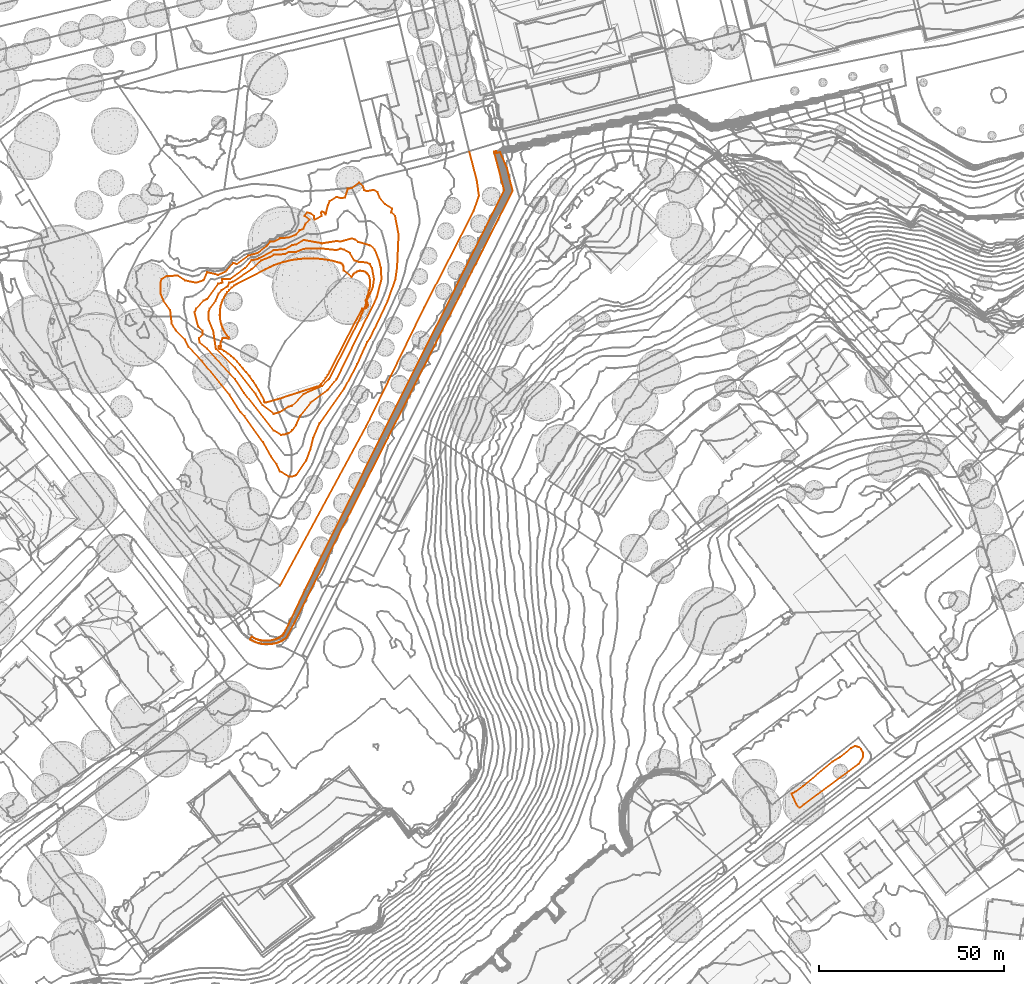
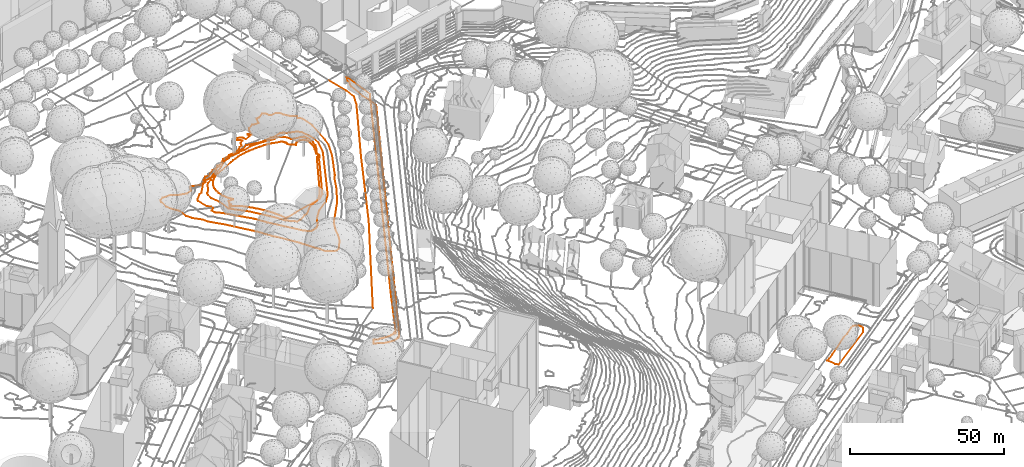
# Not in any storey, part 140 of 494: 7 proxies.
"""IFC2X3 model written with IfcOpenShell, lengths in metres."""

from ifc_helpers import new_model, entity, si_unit, frame, origin_with_axes, place, context, subcontext, project, element, save


model = new_model("IFC2X3")

# Units and contexts
model_context = context("Model", 3, precision=1e-05, world=origin_with_axes())
body_context = subcontext(model_context, "Body", "Model", "MODEL_VIEW")
ifc_project = project(units=[si_unit("AREAUNIT", "SQUARE_METRE"), si_unit("LENGTHUNIT", "METRE")], contexts=[model_context])

# Proxies
proxy_1_placement = place(None, frame((252.3687320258, 195.3547372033, 538.186), z_axis=(0.0, 0.0, 1.0), x_axis=(1.0, 0.0, 0.0)))
element("IfcBuildingElementProxy", 1, at=proxy_1_placement, Name="Road 66", ObjectType="NOTDEFINED", context=body_context, shape_type="GeometricCurveSet", body=[
    entity("IfcGeometricCurveSet", [entity("IfcPolyline", [entity("IfcCartesianPoint", [51.1030000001, 117.3269964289, 1.375]), entity("IfcCartesianPoint", [53.1590000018, 109.5449966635, 1.275]), entity("IfcCartesianPoint", [53.745000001, 105.2859967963, 1.244]), entity("IfcCartesianPoint", [52.2780000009, 101.1749969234, 1.155]), entity("IfcCartesianPoint", [38.9140000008, 75.0359977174, 0.882]), entity("IfcCartesianPoint", [23.2030000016, 42.8769986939, 0.571]), entity("IfcCartesianPoint", [0.0, 0.0, 0.0])])]),
])
proxy_2_placement = place(None, frame((244.2247320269, 180.7827160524, 535.7210730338), z_axis=(0.0, 0.0, 1.0), x_axis=(1.0, 0.0, 0.0)))
element("IfcBuildingElementProxy", 2, at=proxy_2_placement, Name="Roads Outline 68", ObjectType="NOTDEFINED", context=body_context, shape_type="GeometricCurveSet", body=[
    entity("IfcGeometricCurveSet", [entity("IfcPolyline", [entity("IfcCartesianPoint", [0.0, 0.0, 0.0]), entity("IfcCartesianPoint", [0.4299999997, 0.7220000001, 1.0061032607]), entity("IfcCartesianPoint", [1.0609999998, 0.3840000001, 0.9493057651]), entity("IfcCartesianPoint", [1.7209999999, 0.1060000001, 1.0155911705]), entity("IfcCartesianPoint", [2.4039999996, -0.108, 1.1948228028]), entity("IfcCartesianPoint", [3.1039999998, -0.257, 1.230017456]), entity("IfcCartesianPoint", [3.8149999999, -0.3399999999, 1.2166113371]), entity("IfcCartesianPoint", [4.5299999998, -0.355, 1.2185154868]), entity("IfcCartesianPoint", [5.2439999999, -0.3029999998, 1.1986940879]), entity("IfcCartesianPoint", [5.9499999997, -0.1839999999, 1.1050534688]), entity("IfcCartesianPoint", [6.6409999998, 0.0, 0.9576738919]), entity("IfcCartesianPoint", [7.3129999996, 0.2490000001, 0.9249265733]), entity("IfcCartesianPoint", [7.9569999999, 0.5600000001, 1.2168064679]), entity("IfcCartesianPoint", [8.5699999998, 0.9300000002, 0.633516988]), entity("IfcCartesianPoint", [8.7879999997, 1.0960000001, 0.312817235]), entity("IfcCartesianPoint", [8.9849999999, 1.287, 0.1601853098]), entity("IfcCartesianPoint", [9.156, 1.5010000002, 0.2142237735]), entity("IfcCartesianPoint", [9.2959999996, 1.737, 0.2580758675]), entity("IfcCartesianPoint", [10.4009999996, 4.048, 1.1655650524]), entity("IfcCartesianPoint", [17.642, 19.182, 1.3030862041]), entity("IfcCartesianPoint", [68.6979999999, 121.4140000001, 1.3862317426]), entity("IfcCartesianPoint", [66.0919999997, 131.3120000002, 2.9035002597]), entity("IfcCartesianPoint", [65.9649999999, 131.794, 2.7480724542]), entity("IfcCartesianPoint", [66.449, 131.9210000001, 1.2071904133]), entity("IfcCartesianPoint", [66.5759999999, 131.439, 1.2571021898]), entity("IfcCartesianPoint", [67.605, 131.6910000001, -1.3891723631]), entity("IfcCartesianPoint", [69.4449999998, 127.3530000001, -3.1595826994]), entity("IfcCartesianPoint", [70.9919999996, 121.2250000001, -3.6091087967]), entity("IfcCartesianPoint", [10.3689999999, 1.29, -0.8566308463]), entity("IfcCartesianPoint", [10.102, 0.841, -0.8938719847]), entity("IfcCartesianPoint", [9.7779999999, 0.432, -0.8188216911]), entity("IfcCartesianPoint", [9.4009999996, 0.071, -0.7954715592]), entity("IfcCartesianPoint", [8.9789999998, -0.237, -0.8281494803]), entity("IfcCartesianPoint", [8.52, -0.4849999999, -0.7047566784]), entity("IfcCartesianPoint", [7.8059999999, -0.7749999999, -0.5943769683]), entity("IfcCartesianPoint", [7.071, -1.004, -0.6153123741]), entity("IfcCartesianPoint", [6.318, -1.1699999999, -0.5635216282]), entity("IfcCartesianPoint", [5.5549999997, -1.273, -0.39316825]), entity("IfcCartesianPoint", [4.7849999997, -1.311, -0.2687760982]), entity("IfcCartesianPoint", [4.0159999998, -1.284, -0.2092546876]), entity("IfcCartesianPoint", [3.2509999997, -1.193, -0.1711743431]), entity("IfcCartesianPoint", [2.4959999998, -1.037, -0.1060556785]), entity("IfcCartesianPoint", [1.8449999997, -0.848, 0.0245304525]), entity("IfcCartesianPoint", [1.21, -0.611, 0.0957175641]), entity("IfcCartesianPoint", [0.5939999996, -0.328, 0.0530981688]), entity("IfcCartesianPoint", [0.0, 0.0, 0.0])])]),
])
proxy_3_placement = place(None, frame((235.7467320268, 259.5927160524, 545.3221612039), z_axis=(0.0, 0.0, 1.0), x_axis=(1.0, 0.0, 0.0)))
element("IfcBuildingElementProxy", 3, at=proxy_3_placement, Name="Roads Outline 74", ObjectType="NOTDEFINED", context=body_context, shape_type="GeometricCurveSet", body=[
    entity("IfcGeometricCurveSet", [entity("IfcPolyline", [entity("IfcCartesianPoint", [0.071, 0.334, 0.0651981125]), entity("IfcCartesianPoint", [0.182, 0.4399999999, 0.1075597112]), entity("IfcCartesianPoint", [0.324, 0.4979999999, 0.154048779]), entity("IfcCartesianPoint", [0.4780000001, 0.5020000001, 0.189675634]), entity("IfcCartesianPoint", [0.622, 0.45, 0.2000941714]), entity("IfcCartesianPoint", [0.6740000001, 0.4140000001, 0.203348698]), entity("IfcCartesianPoint", [0.7209999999, 0.371, 0.2062245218]), entity("IfcCartesianPoint", [0.5329999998, 1.263, 0.2394812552]), entity("IfcCartesianPoint", [1.0619999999, 2.6140000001, 0.2479954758]), entity("IfcCartesianPoint", [2.6770000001, 2.514, 0.353304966]), entity("IfcCartesianPoint", [2.8419999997, 2.7050000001, 0.3745429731]), entity("IfcCartesianPoint", [2.3049999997, 3.344, 0.3797678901]), entity("IfcCartesianPoint", [1.827, 4.0279999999, 0.3763929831]), entity("IfcCartesianPoint", [1.4100000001, 4.7520000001, 0.4167514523]), entity("IfcCartesianPoint", [1.0589999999, 5.5090000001, 0.4004581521]), entity("IfcCartesianPoint", [0.7749999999, 6.294, 0.3670012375]), entity("IfcCartesianPoint", [0.5619999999, 7.101, 0.4122499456]), entity("IfcCartesianPoint", [0.4199999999, 7.9240000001, 0.4319499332]), entity("IfcCartesianPoint", [0.3509999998, 8.7560000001, 0.4179076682]), entity("IfcCartesianPoint", [0.355, 9.5900000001, 0.4086109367]), entity("IfcCartesianPoint", [0.432, 10.4210000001, 0.4042455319]), entity("IfcCartesianPoint", [0.5819999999, 11.243, 0.4009439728]), entity("IfcCartesianPoint", [0.804, 12.047, 0.4115216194]), entity("IfcCartesianPoint", [1.0949999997, 12.8300000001, 0.3747185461]), entity("IfcCartesianPoint", [1.4539999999, 13.5830000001, 0.4072953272]), entity("IfcCartesianPoint", [1.878, 14.3030000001, 0.3890851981]), entity("IfcCartesianPoint", [2.3629999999, 14.9820000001, 0.3923362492]), entity("IfcCartesianPoint", [2.906, 15.6159999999, 0.3093031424]), entity("IfcCartesianPoint", [3.5019999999, 16.2, 0.3207295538]), entity("IfcCartesianPoint", [4.148, 16.7290000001, 0.3271631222]), entity("IfcCartesianPoint", [4.8369999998, 17.2, 0.3668287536]), entity("IfcCartesianPoint", [12.7689999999, 21.2479999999, 0.3308004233]), entity("IfcCartesianPoint", [13.8879999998, 21.8089999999, 0.3094098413]), entity("IfcCartesianPoint", [15.0350000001, 22.3100000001, 0.2955266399]), entity("IfcCartesianPoint", [16.2059999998, 22.7509999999, 0.3725366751]), entity("IfcCartesianPoint", [17.3989999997, 23.129, 0.40849457]), entity("IfcCartesianPoint", [18.611, 23.4450000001, 0.3205750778]), entity("IfcCartesianPoint", [19.8369999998, 23.696, 0.2684554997]), entity("IfcCartesianPoint", [21.074, 23.8829999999, 0.2900351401]), entity("IfcCartesianPoint", [22.3199999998, 24.0049999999, 0.3147050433]), entity("IfcCartesianPoint", [23.7779999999, 24.1040000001, 0.3221531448]), entity("IfcCartesianPoint", [25.2379999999, 24.1229999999, 0.3093999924]), entity("IfcCartesianPoint", [26.6979999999, 24.0619999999, 0.3817489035]), entity("IfcCartesianPoint", [28.1519999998, 23.922, 0.3882255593]), entity("IfcCartesianPoint", [29.5959999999, 23.702, 0.3894461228]), entity("IfcCartesianPoint", [31.0260000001, 23.4029999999, 0.3442209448]), entity("IfcCartesianPoint", [32.4380000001, 23.027, 0.4470005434]), entity("IfcCartesianPoint", [32.6829999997, 22.953, 0.3813312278]), entity("IfcCartesianPoint", [32.9279999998, 22.8770000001, 0.3212112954]), entity("IfcCartesianPoint", [33.2080000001, 22.703, 0.2616931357]), entity("IfcCartesianPoint", [33.4469999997, 22.477, 0.2273785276]), entity("IfcCartesianPoint", [33.6359999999, 22.2080000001, 0.2118000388]), entity("IfcCartesianPoint", [33.767, 21.906, 0.2065725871]), entity("IfcCartesianPoint", [33.835, 21.5830000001, 0.2133011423]), entity("IfcCartesianPoint", [33.8369999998, 21.254, 0.2299949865]), entity("IfcCartesianPoint", [33.764, 20.855, 0.2571639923]), entity("IfcCartesianPoint", [35.9939999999, 19.1059999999, 0.3105807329]), entity("IfcCartesianPoint", [36.358, 19.7660000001, 0.3020234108]), entity("IfcCartesianPoint", [36.6499999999, 20.0900000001, 0.3046709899]), entity("IfcCartesianPoint", [36.9929999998, 20.3600000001, 0.2825148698]), entity("IfcCartesianPoint", [37.3759999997, 20.568, 0.2676673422]), entity("IfcCartesianPoint", [37.784, 20.7080000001, 0.2500416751]), entity("IfcCartesianPoint", [38.21, 20.7779999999, 0.2360087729]), entity("IfcCartesianPoint", [38.6409999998, 20.774, 0.234298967]), entity("IfcCartesianPoint", [39.0649999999, 20.6980000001, 0.2490400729]), entity("IfcCartesianPoint", [39.4709999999, 20.551, 0.2692685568]), entity("IfcCartesianPoint", [39.8459999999, 20.338, 0.2081053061]), entity("IfcCartesianPoint", [40.179, 20.064, 0.1583831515]), entity("IfcCartesianPoint", [40.4619999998, 19.7379999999, 0.0658126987]), entity("IfcCartesianPoint", [40.6850000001, 19.3689999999, -0.0284233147]), entity("IfcCartesianPoint", [40.844, 18.8200000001, -0.0960962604]), entity("IfcCartesianPoint", [40.946, 18.257, -0.1512278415]), entity("IfcCartesianPoint", [40.9909999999, 17.6869999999, -0.1982094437]), entity("IfcCartesianPoint", [40.9780000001, 17.1159999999, -0.2316018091]), entity("IfcCartesianPoint", [40.906, 16.548, -0.2857802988]), entity("IfcCartesianPoint", [40.7779999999, 15.9909999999, -0.318821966]), entity("IfcCartesianPoint", [40.5159999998, 14.8999999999, -0.364779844]), entity("IfcCartesianPoint", [40.1770000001, 13.831, -0.4413281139]), entity("IfcCartesianPoint", [39.764, 12.7879999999, -0.4899738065]), entity("IfcCartesianPoint", [39.7209999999, 12.6899999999, -0.4852508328]), entity("IfcCartesianPoint", [39.9449999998, 12.5430000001, -0.5973764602]), entity("IfcCartesianPoint", [40.128, 12.3470000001, -0.7081550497]), entity("IfcCartesianPoint", [40.2599999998, 12.1140000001, -0.8109144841]), entity("IfcCartesianPoint", [40.3330000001, 11.8559999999, -0.906940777]), entity("IfcCartesianPoint", [40.3429999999, 11.588, -0.9774460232]), entity("IfcCartesianPoint", [40.29, 11.325, -1.0156946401]), entity("IfcCartesianPoint", [40.179, 11.0889999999, -1.0177706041]), entity("IfcCartesianPoint", [40.017, 10.8840000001, -0.9801153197]), entity("IfcCartesianPoint", [39.8119999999, 10.7220000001, -0.909816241]), entity("IfcCartesianPoint", [39.5749999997, 10.612, -0.8111482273]), entity("IfcCartesianPoint", [39.3190000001, 10.5589999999, -0.6945783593]), entity("IfcCartesianPoint", [39.0579999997, 10.5660000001, -0.568876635]), entity("IfcCartesianPoint", [38.8059999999, 10.6329999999, -0.4335981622]), entity("IfcCartesianPoint", [30.0120000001, -6.456, -0.2663294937]), entity("IfcCartesianPoint", [29.5279999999, -7.352, -0.2404685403]), entity("IfcCartesianPoint", [28.9759999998, -8.2069999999, -0.2618864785]), entity("IfcCartesianPoint", [28.358, -9.0160000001, -0.2740879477]), entity("IfcCartesianPoint", [27.679, -9.7749999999, -0.389313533]), entity("IfcCartesianPoint", [26.943, -10.4779999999, -0.5229590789]), entity("IfcCartesianPoint", [26.6349999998, -10.4620000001, -0.4604393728]), entity("IfcCartesianPoint", [16.7029999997, -13.679, 0.0635464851]), entity("IfcCartesianPoint", [13.193, -14.709, 0.0210121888]), entity("IfcCartesianPoint", [12.8089999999, -14.821, -0.0696048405]), entity("IfcCartesianPoint", [12.7429999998, -14.834, -0.0850407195]), entity("IfcCartesianPoint", [12.676, -14.8359999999, -0.0989210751]), entity("IfcCartesianPoint", [12.5359999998, -14.801, -0.120521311]), entity("IfcCartesianPoint", [12.4180000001, -14.7169999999, -0.1258110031]), entity("IfcCartesianPoint", [12.3390000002, -14.5959999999, -0.1096756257]), entity("IfcCartesianPoint", [12.3089999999, -14.4550000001, -0.0835083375]), entity("IfcCartesianPoint", [12.324, -14.3470000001, -0.0595884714]), entity("IfcCartesianPoint", [12.3689999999, -14.247, -0.0347773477]), entity("IfcCartesianPoint", [11.6829999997, -12.875, 0.0698294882]), entity("IfcCartesianPoint", [10.9399999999, -11.5319999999, 0.103369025]), entity("IfcCartesianPoint", [10.1409999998, -10.2220000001, 0.1861446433]), entity("IfcCartesianPoint", [9.2879999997, -8.9469999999, 0.2594625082]), entity("IfcCartesianPoint", [8.3819999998, -7.7080000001, 0.2735313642]), entity("IfcCartesianPoint", [7.4249999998, -6.5090000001, 0.317861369]), entity("IfcCartesianPoint", [6.6459999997, -5.5789999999, 0.2989048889]), entity("IfcCartesianPoint", [5.8619999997, -4.6529999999, 0.2676621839]), entity("IfcCartesianPoint", [5.0430000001, -3.7560000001, 0.2092078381]), entity("IfcCartesianPoint", [4.1669999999, -2.915, 0.3029572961]), entity("IfcCartesianPoint", [3.327, -2.1939999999, 0.2849520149]), entity("IfcCartesianPoint", [2.4539999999, -1.514, 0.185128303]), entity("IfcCartesianPoint", [1.5499999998, -0.875, 0.1770944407]), entity("IfcCartesianPoint", [0.6170000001, -0.2790000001, 0.0948079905]), entity("IfcCartesianPoint", [0.4810000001, -0.327, 0.0576880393]), entity("IfcCartesianPoint", [0.3360000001, -0.3259999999, 0.0196847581]), entity("IfcCartesianPoint", [0.1999999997, -0.2760000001, -0.0090171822]), entity("IfcCartesianPoint", [0.071, -0.159, -0.0186763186]), entity("IfcCartesianPoint", [0.0, 0.0, 0.0]), entity("IfcCartesianPoint", [0.0, 0.175, 0.0290642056]), entity("IfcCartesianPoint", [0.071, 0.334, 0.0651981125])])]),
])
proxy_4_placement = place(None, frame((233.0326490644, 269.1707160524, 545.0), z_axis=(0.0, 0.0, 1.0), x_axis=(1.0, 0.0, 0.0)))
element("IfcBuildingElementProxy", 4, at=proxy_4_placement, Name="Contour Line 545.0 m", ObjectType="NOTDEFINED", context=body_context, shape_type="GeometricCurveSet", body=[
    entity("IfcGeometricCurveSet", [entity("IfcPolyline", [entity("IfcCartesianPoint", [19.230031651, -27.0, 0.0]), entity("IfcCartesianPoint", [17.6450829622, -27.4382716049, 0.0]), entity("IfcCartesianPoint", [14.6450829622, -25.1175847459, 0.0]), entity("IfcCartesianPoint", [12.673018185, -22.0, 0.0]), entity("IfcCartesianPoint", [7.2007049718, -15.0, 0.0]), entity("IfcCartesianPoint", [2.0355571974, -10.0, 0.0]), entity("IfcCartesianPoint", [1.2820936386, -5.0, 0.0]), entity("IfcCartesianPoint", [0.0653756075, -2.0, 0.0]), entity("IfcCartesianPoint", [0.0, 0.0, 0.0]), entity("IfcCartesianPoint", [0.3465792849, 1.0, 0.0]), entity("IfcCartesianPoint", [1.85348449, 3.0, 0.0]), entity("IfcCartesianPoint", [2.7374837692, 5.0, 0.0]), entity("IfcCartesianPoint", [3.504677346, 6.0, 0.0]), entity("IfcCartesianPoint", [5.1803809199, 7.0, 0.0]), entity("IfcCartesianPoint", [5.5614732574, 8.0, 0.0]), entity("IfcCartesianPoint", [6.6450829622, 8.2703207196, 0.0]), entity("IfcCartesianPoint", [11.6450829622, 11.6198762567, 0.0]), entity("IfcCartesianPoint", [14.1642824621, 14.0, 0.0]), entity("IfcCartesianPoint", [16.6450829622, 14.91160221, 0.0]), entity("IfcCartesianPoint", [17.6450829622, 15.588881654, 0.0]), entity("IfcCartesianPoint", [20.6450829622, 15.6856537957, 0.0]), entity("IfcCartesianPoint", [21.6450829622, 16.2743639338, 0.0]), entity("IfcCartesianPoint", [23.6450829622, 16.332352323, 0.0]), entity("IfcCartesianPoint", [25.6450829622, 17.1393662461, 0.0]), entity("IfcCartesianPoint", [30.6450829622, 17.2044747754, 0.0]), entity("IfcCartesianPoint", [34.6450829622, 16.7855707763, 0.0]), entity("IfcCartesianPoint", [35.6450829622, 17.1813153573, 0.0]), entity("IfcCartesianPoint", [36.6450829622, 16.8818947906, 0.0]), entity("IfcCartesianPoint", [38.1881718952, 16.0, 0.0]), entity("IfcCartesianPoint", [39.4062480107, 14.0, 0.0]), entity("IfcCartesianPoint", [40.6450829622, 13.5767918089, 0.0]), entity("IfcCartesianPoint", [42.6450829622, 13.449440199, 0.0]), entity("IfcCartesianPoint", [43.6584103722, 13.0, 0.0]), entity("IfcCartesianPoint", [44.1838680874, 12.0, 0.0]), entity("IfcCartesianPoint", [44.7244630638, 9.0, 0.0]), entity("IfcCartesianPoint", [44.4401311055, 7.0, 0.0]), entity("IfcCartesianPoint", [43.7030434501, 5.0, 0.0]), entity("IfcCartesianPoint", [42.6450829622, 3.0662042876, 0.0]), entity("IfcCartesianPoint", [42.4687456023, 2.0, 0.0]), entity("IfcCartesianPoint", [40.7791617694, -2.0, 0.0]), entity("IfcCartesianPoint", [32.5998326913, -18.0, 0.0]), entity("IfcCartesianPoint", [30.6450829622, -19.8740307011, 0.0]), entity("IfcCartesianPoint", [25.6450829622, -22.091399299, 0.0]), entity("IfcCartesianPoint", [22.6450829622, -25.2630992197, 0.0]), entity("IfcCartesianPoint", [21.6450829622, -25.468650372, 0.0]), entity("IfcCartesianPoint", [19.230031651, -27.0, 0.0])])]),
])
proxy_5_placement = place(None, frame((229.2438323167, 269.1707160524, 544.0), z_axis=(0.0, 0.0, 1.0), x_axis=(1.0, 0.0, 0.0)))
element("IfcBuildingElementProxy", 5, at=proxy_5_placement, Name="Contour Line 544.0 m", ObjectType="NOTDEFINED", context=body_context, shape_type="GeometricCurveSet", body=[
    entity("IfcGeometricCurveSet", [entity("IfcPolyline", [entity("IfcCartesianPoint", [24.317123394, -33.0, 0.0]), entity("IfcCartesianPoint", [23.43389971, -33.1403187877, 0.0]), entity("IfcCartesianPoint", [21.43389971, -31.9008955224, 0.0]), entity("IfcCartesianPoint", [13.43389971, -21.7798095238, 0.0]), entity("IfcCartesianPoint", [10.9268536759, -18.0, 0.0]), entity("IfcCartesianPoint", [3.43389971, -9.8480885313, 0.0]), entity("IfcCartesianPoint", [1.43389971, -8.2456356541, 0.0]), entity("IfcCartesianPoint", [1.2030107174, -7.0, 0.0]), entity("IfcCartesianPoint", [2.2070570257, -6.0, 0.0]), entity("IfcCartesianPoint", [2.1716997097, -5.0, 0.0]), entity("IfcCartesianPoint", [1.057849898, -4.0, 0.0]), entity("IfcCartesianPoint", [0.0, 0.0, 0.0]), entity("IfcCartesianPoint", [0.494019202, 1.0, 0.0]), entity("IfcCartesianPoint", [2.43389971, 3.1480383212, 0.0]), entity("IfcCartesianPoint", [3.43389971, 3.6062241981, 0.0]), entity("IfcCartesianPoint", [6.43389971, 7.7245978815, 0.0]), entity("IfcCartesianPoint", [7.5839791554, 8.0, 0.0]), entity("IfcCartesianPoint", [7.4096871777, 9.0, 0.0]), entity("IfcCartesianPoint", [9.5834681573, 9.0, 0.0]), entity("IfcCartesianPoint", [13.7322739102, 12.0, 0.0]), entity("IfcCartesianPoint", [15.43389971, 14.1509612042, 0.0]), entity("IfcCartesianPoint", [16.43389971, 14.1789796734, 0.0]), entity("IfcCartesianPoint", [17.43389971, 14.59716866, 0.0]), entity("IfcCartesianPoint", [21.43389971, 16.748645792, 0.0]), entity("IfcCartesianPoint", [24.43389971, 17.0510475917, 0.0]), entity("IfcCartesianPoint", [26.43389971, 18.1599500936, 0.0]), entity("IfcCartesianPoint", [27.43389971, 18.3023216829, 0.0]), entity("IfcCartesianPoint", [29.43389971, 19.533909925, 0.0]), entity("IfcCartesianPoint", [34.43389971, 18.6206210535, 0.0]), entity("IfcCartesianPoint", [38.43389971, 19.238102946, 0.0]), entity("IfcCartesianPoint", [39.43389971, 19.0991167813, 0.0]), entity("IfcCartesianPoint", [42.43389971, 19.9308650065, 0.0]), entity("IfcCartesianPoint", [43.43389971, 19.6306068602, 0.0]), entity("IfcCartesianPoint", [44.2226785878, 19.0, 0.0]), entity("IfcCartesianPoint", [47.43389971, 18.0661120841, 0.0]), entity("IfcCartesianPoint", [48.6993904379, 17.0, 0.0]), entity("IfcCartesianPoint", [49.8952042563, 14.0, 0.0]), entity("IfcCartesianPoint", [50.3692450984, 12.0, 0.0]), entity("IfcCartesianPoint", [50.5397753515, 9.0, 0.0]), entity("IfcCartesianPoint", [49.2559277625, 4.0, 0.0]), entity("IfcCartesianPoint", [38.4215618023, -18.0, 0.0]), entity("IfcCartesianPoint", [35.9569841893, -21.0, 0.0]), entity("IfcCartesianPoint", [31.43389971, -24.3854201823, 0.0]), entity("IfcCartesianPoint", [28.5482076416, -28.0, 0.0]), entity("IfcCartesianPoint", [27.43389971, -30.460131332, 0.0]), entity("IfcCartesianPoint", [26.43389971, -31.8879177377, 0.0]), entity("IfcCartesianPoint", [25.43389971, -32.6683316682, 0.0]), entity("IfcCartesianPoint", [24.317123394, -33.0, 0.0])])]),
])
proxy_6_placement = place(None, frame((220.0429443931, 277.1707160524, 542.0), z_axis=(0.0, 0.0, 1.0), x_axis=(1.0, 0.0, 0.0)))
element("IfcBuildingElementProxy", 6, at=proxy_6_placement, Name="Contour Line 542.0 m", ObjectType="NOTDEFINED", context=body_context, shape_type="GeometricCurveSet", body=[
    entity("IfcGeometricCurveSet", [entity("IfcPolyline", [entity("IfcCartesianPoint", [36.6878402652, -52.0, 0.0]), entity("IfcCartesianPoint", [35.6347876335, -52.4164785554, 0.0]), entity("IfcCartesianPoint", [34.6347876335, -52.3370707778, 0.0]), entity("IfcCartesianPoint", [32.3117017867, -51.0, 0.0]), entity("IfcCartesianPoint", [31.3819937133, -49.0, 0.0]), entity("IfcCartesianPoint", [29.9240221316, -47.0, 0.0]), entity("IfcCartesianPoint", [27.6762573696, -43.0, 0.0]), entity("IfcCartesianPoint", [22.6843565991, -36.0, 0.0]), entity("IfcCartesianPoint", [21.6347876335, -34.9138837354, 0.0]), entity("IfcCartesianPoint", [18.6347876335, -30.2439433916, 0.0]), entity("IfcCartesianPoint", [11.1235162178, -21.0, 0.0]), entity("IfcCartesianPoint", [7.6347876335, -17.3371147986, 0.0]), entity("IfcCartesianPoint", [6.6347876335, -15.4098397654, 0.0]), entity("IfcCartesianPoint", [4.2272345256, -13.0, 0.0]), entity("IfcCartesianPoint", [3.0825106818, -11.0, 0.0]), entity("IfcCartesianPoint", [2.6347876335, -7.4223194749, 0.0]), entity("IfcCartesianPoint", [0.9056383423, -5.0, 0.0]), entity("IfcCartesianPoint", [0.0653188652, -3.0, 0.0]), entity("IfcCartesianPoint", [0.0, 0.0, 0.0]), entity("IfcCartesianPoint", [0.3319288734, 1.0, 0.0]), entity("IfcCartesianPoint", [1.6347876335, 1.7630402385, 0.0]), entity("IfcCartesianPoint", [4.6347876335, 1.8956634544, 0.0]), entity("IfcCartesianPoint", [6.6347876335, 0.6018406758, 0.0]), entity("IfcCartesianPoint", [9.6347876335, -0.0265465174, 0.0]), entity("IfcCartesianPoint", [11.6347876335, 0.6487931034, 0.0]), entity("IfcCartesianPoint", [12.6347876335, 2.8080382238, 0.0]), entity("IfcCartesianPoint", [15.6347876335, 2.0843618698, 0.0]), entity("IfcCartesianPoint", [17.6347876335, 3.0118372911, 0.0]), entity("IfcCartesianPoint", [19.6347876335, 5.3401015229, 0.0]), entity("IfcCartesianPoint", [20.6347876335, 4.966247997, 0.0]), entity("IfcCartesianPoint", [23.6347876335, 7.2767358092, 0.0]), entity("IfcCartesianPoint", [26.2005795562, 8.0, 0.0]), entity("IfcCartesianPoint", [28.8566007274, 10.0, 0.0]), entity("IfcCartesianPoint", [29.6347876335, 11.0353943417, 0.0]), entity("IfcCartesianPoint", [30.6347876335, 11.0360766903, 0.0]), entity("IfcCartesianPoint", [32.3911282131, 12.0, 0.0]), entity("IfcCartesianPoint", [34.6347876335, 12.1813664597, 0.0]), entity("IfcCartesianPoint", [36.6347876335, 13.0003450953, 0.0]), entity("IfcCartesianPoint", [37.6347876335, 14.1535276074, 0.0]), entity("IfcCartesianPoint", [38.6347876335, 14.5605194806, 0.0]), entity("IfcCartesianPoint", [39.1769534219, 16.0, 0.0]), entity("IfcCartesianPoint", [40.3521209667, 17.0, 0.0]), entity("IfcCartesianPoint", [38.9285849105, 18.0, 0.0]), entity("IfcCartesianPoint", [39.6347876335, 18.9923469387, 0.0]), entity("IfcCartesianPoint", [40.6347876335, 18.6587867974, 0.0]), entity("IfcCartesianPoint", [41.4747080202, 18.0, 0.0]), entity("IfcCartesianPoint", [41.6347876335, 16.9794728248, 0.0]), entity("IfcCartesianPoint", [43.5757188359, 18.0, 0.0]), entity("IfcCartesianPoint", [43.3833292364, 19.0, 0.0]), entity("IfcCartesianPoint", [43.6347876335, 19.2014264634, 0.0]), entity("IfcCartesianPoint", [44.2210438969, 19.0, 0.0]), entity("IfcCartesianPoint", [44.6347876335, 18.4294175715, 0.0]), entity("IfcCartesianPoint", [45.2520132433, 21.0, 0.0]), entity("IfcCartesianPoint", [45.7587457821, 22.0, 0.0]), entity("IfcCartesianPoint", [47.6347876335, 23.1891955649, 0.0]), entity("IfcCartesianPoint", [48.6347876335, 22.8106697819, 0.0]), entity("IfcCartesianPoint", [49.8454863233, 23.0, 0.0]), entity("IfcCartesianPoint", [50.6347876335, 25.4129181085, 0.0]), entity("IfcCartesianPoint", [51.6347876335, 25.5284147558, 0.0]), entity("IfcCartesianPoint", [53.6347876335, 27.0402181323, 0.0]), entity("IfcCartesianPoint", [54.7984704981, 26.0, 0.0]), entity("IfcCartesianPoint", [55.0280460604, 25.0, 0.0]), entity("IfcCartesianPoint", [55.6347876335, 24.6886112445, 0.0]), entity("IfcCartesianPoint", [57.6347876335, 25.0557059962, 0.0]), entity("IfcCartesianPoint", [58.6347876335, 24.4186795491, 0.0]), entity("IfcCartesianPoint", [59.2618174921, 23.0, 0.0]), entity("IfcCartesianPoint", [60.6347876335, 21.2275092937, 0.0]), entity("IfcCartesianPoint", [62.6252067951, 20.0, 0.0]), entity("IfcCartesianPoint", [62.3334010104, 19.0, 0.0]), entity("IfcCartesianPoint", [63.4313667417, 18.0, 0.0]), entity("IfcCartesianPoint", [64.3528204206, 13.0, 0.0]), entity("IfcCartesianPoint", [63.9438188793, 4.0, 0.0]), entity("IfcCartesianPoint", [63.4975260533, 1.0, 0.0]), entity("IfcCartesianPoint", [61.3916016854, -5.0, 0.0]), entity("IfcCartesianPoint", [56.6226935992, -15.0, 0.0]), entity("IfcCartesianPoint", [55.8631248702, -16.0, 0.0]), entity("IfcCartesianPoint", [53.2013016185, -22.0, 0.0]), entity("IfcCartesianPoint", [49.6347876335, -28.6527342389, 0.0]), entity("IfcCartesianPoint", [42.9884081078, -38.0, 0.0]), entity("IfcCartesianPoint", [41.2589853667, -42.0, 0.0]), entity("IfcCartesianPoint", [40.5274015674, -45.0, 0.0]), entity("IfcCartesianPoint", [39.385401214, -48.0, 0.0]), entity("IfcCartesianPoint", [36.6878402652, -52.0, 0.0])])]),
])
proxy_7_placement = place(None, frame((390.554567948, 139.1707160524, 503.0), z_axis=(0.0, 0.0, 1.0), x_axis=(1.0, 0.0, 0.0)))
element("IfcBuildingElementProxy", 7, at=proxy_7_placement, Name="Contour Line 503.0 m", ObjectType="NOTDEFINED", context=body_context, shape_type="GeometricCurveSet", body=[
    entity("IfcGeometricCurveSet", [entity("IfcPolyline", [entity("IfcCartesianPoint", [3.3088236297, -3.0, 0.0]), entity("IfcCartesianPoint", [2.1231640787, -3.8514931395, 0.0]), entity("IfcCartesianPoint", [1.3503835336, -3.0, 0.0]), entity("IfcCartesianPoint", [0.0, 0.0, 0.0]), entity("IfcCartesianPoint", [1.1231640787, 0.5151680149, 0.0]), entity("IfcCartesianPoint", [3.0706098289, 2.0, 0.0]), entity("IfcCartesianPoint", [11.1231640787, 8.6590027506, 0.0]), entity("IfcCartesianPoint", [13.1231640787, 9.8448673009, 0.0]), entity("IfcCartesianPoint", [16.1231640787, 12.3198329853, 0.0]), entity("IfcCartesianPoint", [17.1231640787, 12.8002671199, 0.0]), entity("IfcCartesianPoint", [18.1231640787, 12.5733474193, 0.0]), entity("IfcCartesianPoint", [18.8068063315, 12.0, 0.0]), entity("IfcCartesianPoint", [19.3378647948, 11.0, 0.0]), entity("IfcCartesianPoint", [19.3731302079, 10.0, 0.0]), entity("IfcCartesianPoint", [18.1231640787, 8.0027926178, 0.0]), entity("IfcCartesianPoint", [3.3088236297, -3.0, 0.0])])]),
])

save(model, "model.ifc")
